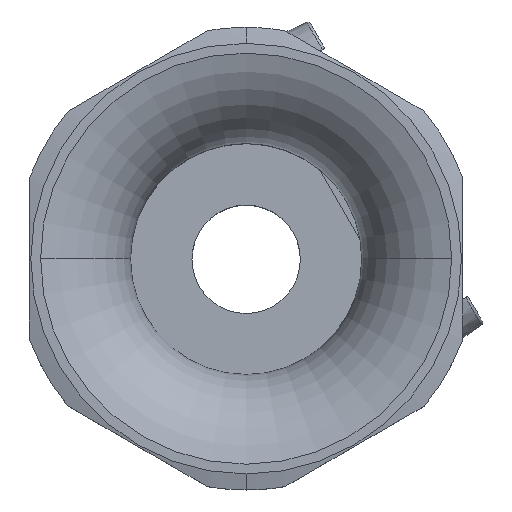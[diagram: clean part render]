
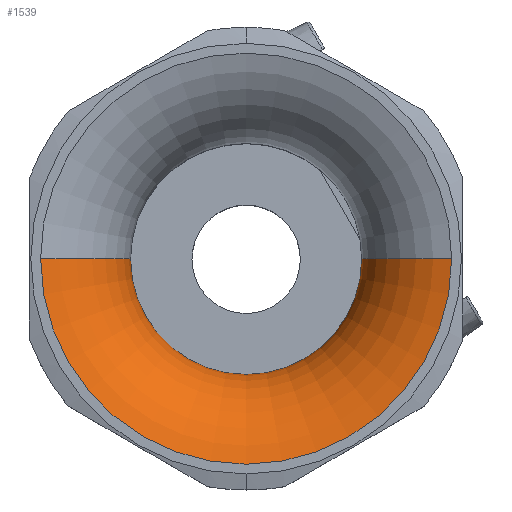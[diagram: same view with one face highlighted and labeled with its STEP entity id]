
A CAD part, top view. The second image highlights one B-rep face of the part: STEP entity #1539.
In plain terms, the highlighted toroidal (fillet/blend) face has major radius 16 mm and minor radius 8 mm.
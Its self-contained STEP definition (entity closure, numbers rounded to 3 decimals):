
#61 = VERTEX_POINT ( 'NONE', #1957 ) ;
#62 = VERTEX_POINT ( 'NONE', #1948 ) ;
#64 = EDGE_CURVE ( 'NONE', #62, #128, #1965, .T. ) ;
#68 = EDGE_CURVE ( 'NONE', #61, #295, #1951, .T. ) ;
#128 = VERTEX_POINT ( 'NONE', #2097 ) ;
#294 = EDGE_CURVE ( 'NONE', #128, #295, #2395, .T. ) ;
#295 = VERTEX_POINT ( 'NONE', #2368 ) ;
#943 = EDGE_CURVE ( 'NONE', #62, #61, #4680, .T. ) ;
#1415 = EDGE_LOOP ( 'NONE', ( #1540, #1541, #1542, #1543 ) ) ;
#1539 = ADVANCED_FACE ( 'NONE', ( #3157 ), #3156, .T. ) ;
#1540 = ORIENTED_EDGE ( 'NONE', *, *, #64, .F. ) ;
#1541 = ORIENTED_EDGE ( 'NONE', *, *, #943, .T. ) ;
#1542 = ORIENTED_EDGE ( 'NONE', *, *, #68, .T. ) ;
#1543 = ORIENTED_EDGE ( 'NONE', *, *, #294, .F. ) ;
#1948 = CARTESIAN_POINT ( 'NONE',  ( -14.222, 0., 20. ) ) ;
#1950 = CARTESIAN_POINT ( 'NONE',  ( 16., 0., 12.2 ) ) ;
#1951 = CIRCLE ( 'NONE', #1956, 8. ) ;
#1954 = DIRECTION ( 'NONE',  ( 0., 0., -1. ) ) ;
#1955 = DIRECTION ( 'NONE',  ( 0., -1., 0. ) ) ;
#1956 = AXIS2_PLACEMENT_3D ( 'NONE', #1950, #1955, #1954 ) ;
#1957 = CARTESIAN_POINT ( 'NONE',  ( 14.222, 0., 20. ) ) ;
#1962 = DIRECTION ( 'NONE',  ( 0., 1., 0. ) ) ;
#1963 = CARTESIAN_POINT ( 'NONE',  ( -16., 0., 12.2 ) ) ;
#1964 = AXIS2_PLACEMENT_3D ( 'NONE', #1963, #1962, #1974 ) ;
#1965 = CIRCLE ( 'NONE', #1964, 8. ) ;
#1974 = DIRECTION ( 'NONE',  ( -1., 0., 0. ) ) ;
#2097 = CARTESIAN_POINT ( 'NONE',  ( -8., 0., 12.2 ) ) ;
#2368 = CARTESIAN_POINT ( 'NONE',  ( 8., 0., 12.2 ) ) ;
#2369 = DIRECTION ( 'NONE',  ( 1., 0., 0. ) ) ;
#2370 = DIRECTION ( 'NONE',  ( 0., 0., 1. ) ) ;
#2371 = CARTESIAN_POINT ( 'NONE',  ( 0., 0., 12.2 ) ) ;
#2394 = AXIS2_PLACEMENT_3D ( 'NONE', #2371, #2370, #2369 ) ;
#2395 = CIRCLE ( 'NONE', #2394, 8. ) ;
#3152 = DIRECTION ( 'NONE',  ( 1., 0., 0. ) ) ;
#3153 = DIRECTION ( 'NONE',  ( 0., 0., 1. ) ) ;
#3154 = CARTESIAN_POINT ( 'NONE',  ( 0., 0., 12.2 ) ) ;
#3155 = AXIS2_PLACEMENT_3D ( 'NONE', #3154, #3153, #3152 ) ;
#3156 = TOROIDAL_SURFACE ( 'NONE', #3155, 16., 8. ) ;
#3157 = FACE_OUTER_BOUND ( 'NONE', #1415, .T. ) ;
#4677 = DIRECTION ( 'NONE',  ( 1., 0., 0. ) ) ;
#4678 = DIRECTION ( 'NONE',  ( 0., 0., 1. ) ) ;
#4679 = AXIS2_PLACEMENT_3D ( 'NONE', #4729, #4678, #4677 ) ;
#4680 = CIRCLE ( 'NONE', #4679, 14.222 ) ;
#4729 = CARTESIAN_POINT ( 'NONE',  ( 0., 0., 20. ) ) ;
